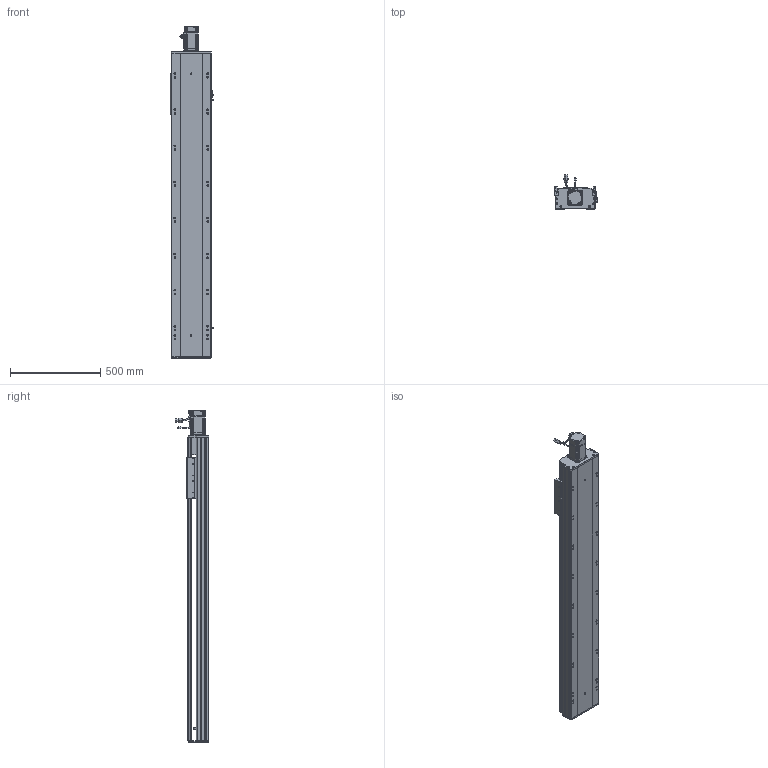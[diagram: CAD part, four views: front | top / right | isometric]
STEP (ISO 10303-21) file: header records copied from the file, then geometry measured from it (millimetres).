
FILE_DESCRIPTION (( 'STEP AP203' ), '1' );
FILE_NAME ('RY220-L2525-800-MK-邧嶺.SLDASM_1250.step', '2022-08-06T08:57:44', ( '' ), ( '' ), 'SwSTEP 2.0', 'SolidWorks 2016', '' );
FILE_SCHEMA (( 'CONFIG_CONTROL_DESIGN' ));
Length unit declared in the file: millimetre
Products named in the file (12): 滅袉蝶18-15; RY220菁釱MK-800-邧嶺_1250; RY220电机支撑座FK20（PCD90M6）; 怢湛750W_ECMA-CX0807ES; RY220-L2525-800-MK-邧嶺.SLDASM_1250; RY220綴裔啣; RY220-俋离672覜茼んえ; RY220-800-奻裔啣-MK_1250; 滅袉蝶18-12; RY220ヶ裔啣; 覜茼ん672; RY220半封闭25-32螺母铝滑块
Assembly tree (15 placements, depth 2):
  RY220-L2525-800-MK-邧嶺.SLDASM_1250
    RY220菁釱MK-800-邧嶺_1250
    RY220电机支撑座FK20（PCD90M6）
    怢湛750W_ECMA-CX0807ES
    滅袉蝶18-12  x2
    RY220ヶ裔啣
    RY220綴裔啣
    覜茼ん672  x3
    RY220半封闭25-32螺母铝滑块
    RY220-800-奻裔啣-MK_1250
    RY220-俋离672覜茼んえ
    滅袉蝶18-15  x2
Bounding box: 238.7 x 187.27 x 1840.3 mm (x, y, z)
Volume: 14163621.1 mm3; surface area: 4023763 mm2
Topology: 16 solids, 16 shells, 2294 faces, 6366 edges, 4010 vertices
Faces by surface type: cylinder 1048, plane 915, cone 269, bspline 36, sphere 16, torus 10
Entity records: 75560 total; most frequent: CARTESIAN_POINT 21429, ORIENTED_EDGE 11232, DIRECTION 10663, EDGE_CURVE 5616, AXIS2_PLACEMENT_3D 3767, VERTEX_POINT 3666, LINE 3129, VECTOR 3129
